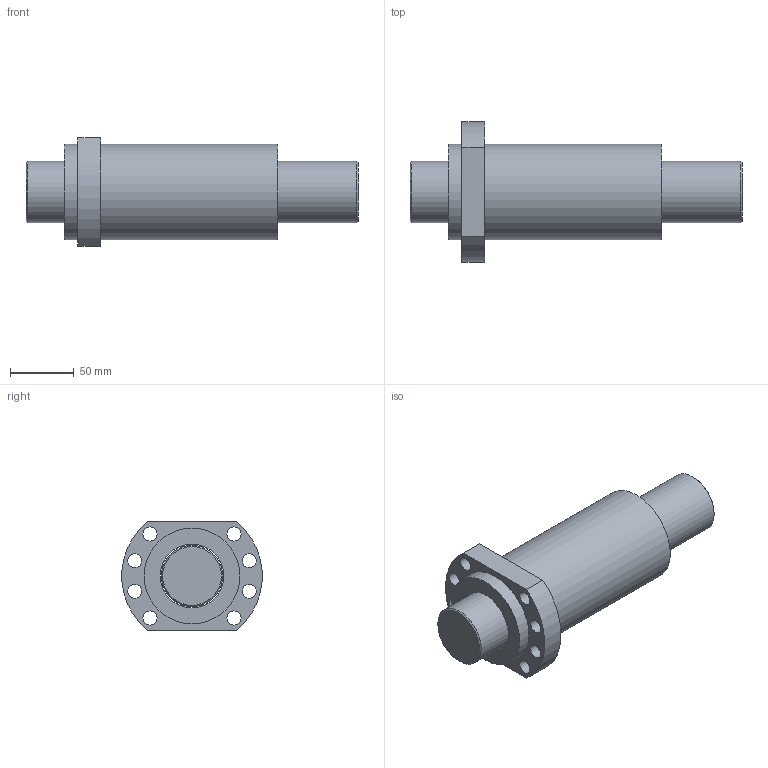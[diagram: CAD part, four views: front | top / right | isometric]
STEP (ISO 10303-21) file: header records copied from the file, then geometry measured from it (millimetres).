
FILE_DESCRIPTION(/* description */ (''),/* implementation_level */ '2;1');
FILE_NAME(/* name */ 'SFA5050-2.8.stp',/* time_stamp */ '2019-04-02T13:35:08+08:00',/* author */ (''),/* organization */ (''),/* preprocessor_version */ 'ST-DEVELOPER v14',/* originating_system */ 'SIEMENS PLM Software NX 8.0',/* authorisation */ '');
FILE_SCHEMA (('AP203_CONFIGURATION_CONTROLLED_3D_DESIGN_OF_MECHANICAL_PARTS_AND_ASSEMBLIES_MIM_LF { 1 0 10303 403 2 1 2}'));
Length unit declared in the file: millimetre
Products named in the file (1): 00251B18CDB0b5m5
Bounding box: 260 x 109.65 x 85 mm (x, y, z)
Volume: 936595.3 mm3; surface area: 126146.7 mm2
Topology: 2 solids, 2 shells, 24 faces, 55 edges, 37 vertices
Faces by surface type: cylinder 14, plane 8, cone 2
Full cylindrical faces by diameter (mm): 11 x8, 48 x1, 50 x1, 75 x2
Entity records: 726 total; most frequent: DIRECTION 118, CARTESIAN_POINT 97, ORIENTED_EDGE 76, EDGE_LOOP 58, AXIS2_PLACEMENT_3D 55, FACE_BOUND 52, EDGE_CURVE 38, VERTEX_POINT 34
